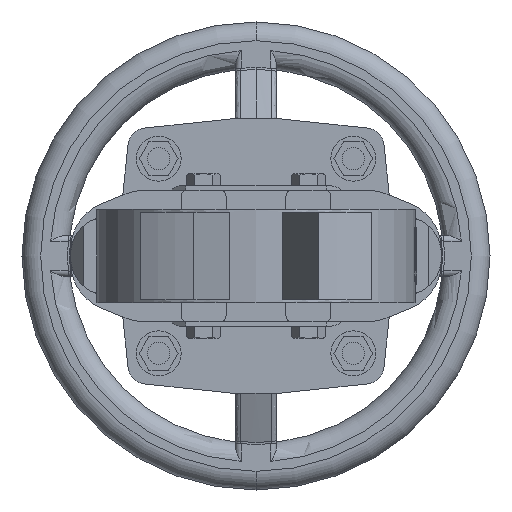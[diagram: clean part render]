
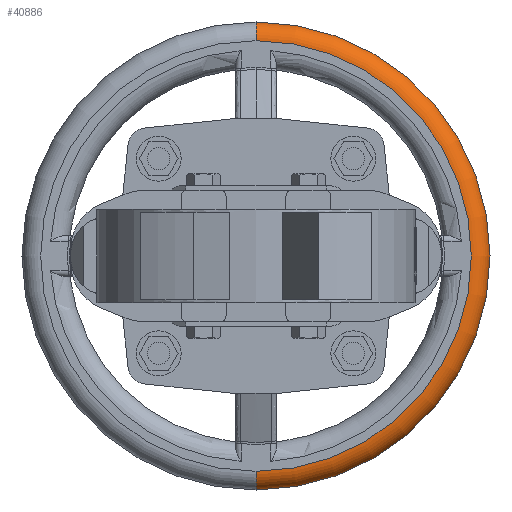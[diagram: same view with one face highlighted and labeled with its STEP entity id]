
A CAD part, front view. The second image highlights one B-rep face of the part: STEP entity #40886.
In plain terms, the highlighted toroidal (fillet/blend) face has major radius 115 mm and minor radius 10 mm.
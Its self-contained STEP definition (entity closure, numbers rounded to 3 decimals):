
#18993 = CARTESIAN_POINT ( 'NONE',  ( 0., 928., -115. ) ) ;
#18995 = DIRECTION ( 'NONE',  ( 0., 0., 1. ) ) ;
#18997 = DIRECTION ( 'NONE',  ( 0., 1., 0. ) ) ;
#18999 = CARTESIAN_POINT ( 'NONE',  ( 0., 928., 0. ) ) ;
#19000 = AXIS2_PLACEMENT_3D ( 'NONE', #18999, #18997, #18995 ) ;
#19002 = CIRCLE ( 'NONE', #19000, 115. ) ;
#19029 = DIRECTION ( 'NONE',  ( 0., 0., 1. ) ) ;
#19031 = DIRECTION ( 'NONE',  ( -1., 0., 0. ) ) ;
#19032 = CARTESIAN_POINT ( 'NONE',  ( 0., 938., 115. ) ) ;
#19034 = AXIS2_PLACEMENT_3D ( 'NONE', #19032, #19031, #19029 ) ;
#19036 = CIRCLE ( 'NONE', #19034, 10. ) ;
#19070 = DIRECTION ( 'NONE',  ( 0., 0., 1. ) ) ;
#19072 = DIRECTION ( 'NONE',  ( 0., 1., 0. ) ) ;
#19074 = CARTESIAN_POINT ( 'NONE',  ( 0., 938., 0. ) ) ;
#19076 = AXIS2_PLACEMENT_3D ( 'NONE', #19074, #19072, #19070 ) ;
#19077 = TOROIDAL_SURFACE ( 'NONE', #19076, 115., 10. ) ;
#19084 = FACE_OUTER_BOUND ( 'NONE', #40887, .T. ) ;
#19098 = DIRECTION ( 'NONE',  ( 0., 0., -1. ) ) ;
#19099 = DIRECTION ( 'NONE',  ( 1., 0., 0. ) ) ;
#19101 = CARTESIAN_POINT ( 'NONE',  ( 0., 938., -115. ) ) ;
#19102 = AXIS2_PLACEMENT_3D ( 'NONE', #19101, #19099, #19098 ) ;
#19104 = CIRCLE ( 'NONE', #19102, 10. ) ;
#19141 = CARTESIAN_POINT ( 'NONE',  ( 0., 928., 115. ) ) ;
#19152 = CARTESIAN_POINT ( 'NONE',  ( 0., 938., 125. ) ) ;
#19155 = DIRECTION ( 'NONE',  ( 0., 0., 1. ) ) ;
#19156 = DIRECTION ( 'NONE',  ( 0., 1., 0. ) ) ;
#19158 = CARTESIAN_POINT ( 'NONE',  ( 0., 938., 0. ) ) ;
#19159 = AXIS2_PLACEMENT_3D ( 'NONE', #19158, #19156, #19155 ) ;
#19161 = CIRCLE ( 'NONE', #19159, 125. ) ;
#19364 = CARTESIAN_POINT ( 'NONE',  ( 0., 938., -125. ) ) ;
#40869 = ORIENTED_EDGE ( 'NONE', *, *, #40870, .F. ) ;
#40870 = EDGE_CURVE ( 'NONE', #40904, #40897, #19036, .T. ) ;
#40872 = ORIENTED_EDGE ( 'NONE', *, *, #40896, .F. ) ;
#40875 = ORIENTED_EDGE ( 'NONE', *, *, #40876, .T. ) ;
#40876 = EDGE_CURVE ( 'NONE', #40904, #40877, #19002, .T. ) ;
#40877 = VERTEX_POINT ( 'NONE', #18993 ) ;
#40882 = ORIENTED_EDGE ( 'NONE', *, *, #40883, .T. ) ;
#40883 = EDGE_CURVE ( 'NONE', #40877, #40951, #19104, .T. ) ;
#40886 = ADVANCED_FACE ( 'NONE', ( #19084 ), #19077, .T. ) ;
#40887 = EDGE_LOOP ( 'NONE', ( #40875, #40882, #40872, #40869 ) ) ;
#40896 = EDGE_CURVE ( 'NONE', #40897, #40951, #19161, .T. ) ;
#40897 = VERTEX_POINT ( 'NONE', #19152 ) ;
#40904 = VERTEX_POINT ( 'NONE', #19141 ) ;
#40951 = VERTEX_POINT ( 'NONE', #19364 ) ;
